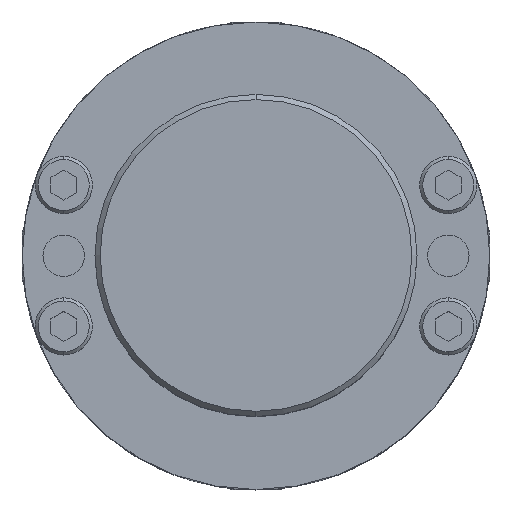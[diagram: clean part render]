
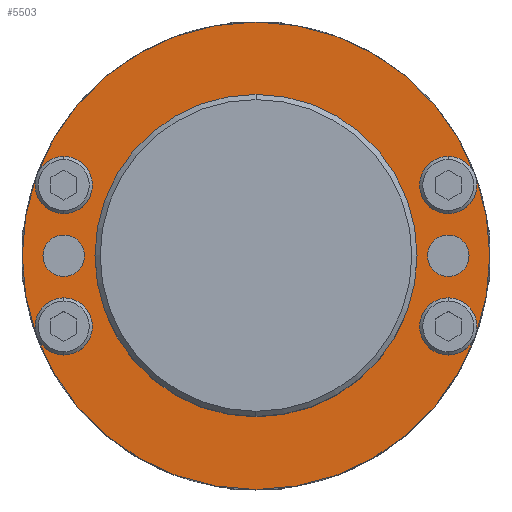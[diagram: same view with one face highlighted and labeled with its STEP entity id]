
A CAD part, top view. The second image highlights one B-rep face of the part: STEP entity #5503.
In plain terms, the highlighted planar face has unit normal (0, 0, 1).
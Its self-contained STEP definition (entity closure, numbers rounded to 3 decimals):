
#1196=CARTESIAN_POINT('',(0.,-22.5,12.));
#1197=VERTEX_POINT('',#1196);
#1305=CARTESIAN_POINT('',(0.,22.5,12.));
#1306=VERTEX_POINT('',#1305);
#1313=CARTESIAN_POINT('',(0.,0.,12.0));
#1314=DIRECTION('',(0.0,0.0,-1.0));
#1315=DIRECTION('',(0.0,-1.0,0.0));
#1316=AXIS2_PLACEMENT_3D('',#1313,#1314,#1315);
#1317=CIRCLE('',#1316,22.5);
#1318=EDGE_CURVE('',#1306,#1197,#1317,.T.);
#1505=CARTESIAN_POINT('',(0.,-15.5,12.));
#1506=VERTEX_POINT('',#1505);
#1515=CARTESIAN_POINT('',(0.,15.5,12.));
#1516=VERTEX_POINT('',#1515);
#1517=CARTESIAN_POINT('',(0.,0.,12.0));
#1518=DIRECTION('',(0.0,0.0,-1.0));
#1519=DIRECTION('',(0.0,-1.0,0.0));
#1520=AXIS2_PLACEMENT_3D('',#1517,#1518,#1519);
#1521=CIRCLE('',#1520,15.5);
#1522=EDGE_CURVE('',#1516,#1506,#1521,.T.);
#1581=CARTESIAN_POINT('',(18.5,4.05,12.0));
#1582=VERTEX_POINT('',#1581);
#1598=CARTESIAN_POINT('',(18.5,9.55,12.0));
#1599=VERTEX_POINT('',#1598);
#1606=CARTESIAN_POINT('',(18.5,6.8,12.0));
#1607=DIRECTION('',(0.0,0.0,-1.0));
#1608=DIRECTION('',(0.0,-1.0,0.0));
#1609=AXIS2_PLACEMENT_3D('',#1606,#1607,#1608);
#1610=CIRCLE('',#1609,2.75);
#1611=EDGE_CURVE('',#1582,#1599,#1610,.T.);
#1655=CARTESIAN_POINT('',(18.5,-9.55,12.));
#1656=VERTEX_POINT('',#1655);
#1672=CARTESIAN_POINT('',(18.5,-4.05,12.0));
#1673=VERTEX_POINT('',#1672);
#1680=CARTESIAN_POINT('',(18.5,-6.8,12.0));
#1681=DIRECTION('',(0.0,0.0,-1.0));
#1682=DIRECTION('',(0.0,-1.0,0.0));
#1683=AXIS2_PLACEMENT_3D('',#1680,#1681,#1682);
#1684=CIRCLE('',#1683,2.75);
#1685=EDGE_CURVE('',#1656,#1673,#1684,.T.);
#1729=CARTESIAN_POINT('',(-18.5,4.05,12.0));
#1730=VERTEX_POINT('',#1729);
#1746=CARTESIAN_POINT('',(-18.5,9.55,12.0));
#1747=VERTEX_POINT('',#1746);
#1754=CARTESIAN_POINT('',(-18.5,6.8,12.0));
#1755=DIRECTION('',(0.0,0.0,-1.0));
#1756=DIRECTION('',(0.0,-1.0,0.0));
#1757=AXIS2_PLACEMENT_3D('',#1754,#1755,#1756);
#1758=CIRCLE('',#1757,2.75);
#1759=EDGE_CURVE('',#1730,#1747,#1758,.T.);
#1803=CARTESIAN_POINT('',(-18.5,-9.55,12.));
#1804=VERTEX_POINT('',#1803);
#1820=CARTESIAN_POINT('',(-18.5,-4.05,12.0));
#1821=VERTEX_POINT('',#1820);
#1828=CARTESIAN_POINT('',(-18.5,-6.8,12.0));
#1829=DIRECTION('',(0.0,0.0,-1.0));
#1830=DIRECTION('',(0.0,-1.0,0.0));
#1831=AXIS2_PLACEMENT_3D('',#1828,#1829,#1830);
#1832=CIRCLE('',#1831,2.75);
#1833=EDGE_CURVE('',#1804,#1821,#1832,.T.);
#1875=CARTESIAN_POINT('',(18.5,-2.,12.0));
#1876=VERTEX_POINT('',#1875);
#1885=CARTESIAN_POINT('',(18.5,2.,12.0));
#1886=VERTEX_POINT('',#1885);
#1887=CARTESIAN_POINT('',(18.5,0.,12.0));
#1888=DIRECTION('',(0.0,0.0,-1.0));
#1889=DIRECTION('',(0.0,-1.0,0.0));
#1890=AXIS2_PLACEMENT_3D('',#1887,#1888,#1889);
#1891=CIRCLE('',#1890,2.0);
#1892=EDGE_CURVE('',#1886,#1876,#1891,.T.);
#1917=CARTESIAN_POINT('',(-18.5,-2.,12.0));
#1918=VERTEX_POINT('',#1917);
#1927=CARTESIAN_POINT('',(-18.5,2.,12.0));
#1928=VERTEX_POINT('',#1927);
#1929=CARTESIAN_POINT('',(-18.5,0.,12.0));
#1930=DIRECTION('',(0.0,0.0,-1.0));
#1931=DIRECTION('',(0.0,-1.0,0.0));
#1932=AXIS2_PLACEMENT_3D('',#1929,#1930,#1931);
#1933=CIRCLE('',#1932,2.0);
#1934=EDGE_CURVE('',#1928,#1918,#1933,.T.);
#4062=CARTESIAN_POINT('',(-18.5,0.,12.0));
#4063=DIRECTION('',(0.0,0.0,-1.0));
#4064=DIRECTION('',(0.0,-1.0,0.0));
#4065=AXIS2_PLACEMENT_3D('',#4062,#4063,#4064);
#4066=CIRCLE('',#4065,2.0);
#4067=EDGE_CURVE('',#1918,#1928,#4066,.T.);
#4086=CARTESIAN_POINT('',(18.5,0.,12.0));
#4087=DIRECTION('',(0.0,0.0,-1.0));
#4088=DIRECTION('',(0.0,-1.0,0.0));
#4089=AXIS2_PLACEMENT_3D('',#4086,#4087,#4088);
#4090=CIRCLE('',#4089,2.0);
#4091=EDGE_CURVE('',#1876,#1886,#4090,.T.);
#4926=CARTESIAN_POINT('',(-18.5,-6.8,12.0));
#4927=DIRECTION('',(0.0,0.0,-1.0));
#4928=DIRECTION('',(0.0,-1.0,0.0));
#4929=AXIS2_PLACEMENT_3D('',#4926,#4927,#4928);
#4930=CIRCLE('',#4929,2.75);
#4931=EDGE_CURVE('',#1821,#1804,#4930,.T.);
#4986=CARTESIAN_POINT('',(-18.5,6.8,12.0));
#4987=DIRECTION('',(0.0,0.0,-1.0));
#4988=DIRECTION('',(0.0,-1.0,0.0));
#4989=AXIS2_PLACEMENT_3D('',#4986,#4987,#4988);
#4990=CIRCLE('',#4989,2.75);
#4991=EDGE_CURVE('',#1747,#1730,#4990,.T.);
#5046=CARTESIAN_POINT('',(18.5,-6.8,12.0));
#5047=DIRECTION('',(0.0,0.0,-1.0));
#5048=DIRECTION('',(0.0,-1.0,0.0));
#5049=AXIS2_PLACEMENT_3D('',#5046,#5047,#5048);
#5050=CIRCLE('',#5049,2.75);
#5051=EDGE_CURVE('',#1673,#1656,#5050,.T.);
#5106=CARTESIAN_POINT('',(18.5,6.8,12.0));
#5107=DIRECTION('',(0.0,0.0,-1.0));
#5108=DIRECTION('',(0.0,-1.0,0.0));
#5109=AXIS2_PLACEMENT_3D('',#5106,#5107,#5108);
#5110=CIRCLE('',#5109,2.75);
#5111=EDGE_CURVE('',#1599,#1582,#5110,.T.);
#5168=CARTESIAN_POINT('',(0.,0.,12.0));
#5169=DIRECTION('',(0.0,0.0,-1.0));
#5170=DIRECTION('',(0.0,-1.0,0.0));
#5171=AXIS2_PLACEMENT_3D('',#5168,#5169,#5170);
#5172=CIRCLE('',#5171,15.5);
#5173=EDGE_CURVE('',#1506,#1516,#5172,.T.);
#5460=CARTESIAN_POINT('',(0.,-2.045,12.0));
#5461=DIRECTION('',(0.0,0.0,1.0));
#5462=DIRECTION('',(0.0,-1.0,0.0));
#5463=AXIS2_PLACEMENT_3D('',#5460,#5461,#5462);
#5464=PLANE('',#5463);
#5465=CARTESIAN_POINT('',(0.,0.,12.0));
#5466=DIRECTION('',(0.0,0.0,-1.0));
#5467=DIRECTION('',(0.0,-1.0,0.0));
#5468=AXIS2_PLACEMENT_3D('',#5465,#5466,#5467);
#5469=CIRCLE('',#5468,22.5);
#5470=EDGE_CURVE('',#1197,#1306,#5469,.T.);
#5471=ORIENTED_EDGE('',*,*,#5470,.F.);
#5472=ORIENTED_EDGE('',*,*,#1318,.F.);
#5473=EDGE_LOOP('',(#5471,#5472));
#5474=FACE_OUTER_BOUND('',#5473,.T.);
#5475=ORIENTED_EDGE('',*,*,#1833,.T.);
#5476=ORIENTED_EDGE('',*,*,#4931,.T.);
#5477=EDGE_LOOP('',(#5475,#5476));
#5478=FACE_BOUND('',#5477,.T.);
#5479=ORIENTED_EDGE('',*,*,#1759,.T.);
#5480=ORIENTED_EDGE('',*,*,#4991,.T.);
#5481=EDGE_LOOP('',(#5479,#5480));
#5482=FACE_BOUND('',#5481,.T.);
#5483=ORIENTED_EDGE('',*,*,#1611,.T.);
#5484=ORIENTED_EDGE('',*,*,#5111,.T.);
#5485=EDGE_LOOP('',(#5483,#5484));
#5486=FACE_BOUND('',#5485,.T.);
#5487=ORIENTED_EDGE('',*,*,#1685,.T.);
#5488=ORIENTED_EDGE('',*,*,#5051,.T.);
#5489=EDGE_LOOP('',(#5487,#5488));
#5490=FACE_BOUND('',#5489,.T.);
#5491=ORIENTED_EDGE('',*,*,#1934,.T.);
#5492=ORIENTED_EDGE('',*,*,#4067,.T.);
#5493=EDGE_LOOP('',(#5491,#5492));
#5494=FACE_BOUND('',#5493,.T.);
#5495=ORIENTED_EDGE('',*,*,#1892,.T.);
#5496=ORIENTED_EDGE('',*,*,#4091,.T.);
#5497=EDGE_LOOP('',(#5495,#5496));
#5498=FACE_BOUND('',#5497,.T.);
#5499=ORIENTED_EDGE('',*,*,#1522,.T.);
#5500=ORIENTED_EDGE('',*,*,#5173,.T.);
#5501=EDGE_LOOP('',(#5499,#5500));
#5502=FACE_BOUND('',#5501,.T.);
#5503=ADVANCED_FACE('',(#5474,#5478,#5482,#5486,#5490,#5494,#5498,#5502),#5464,.T.);
